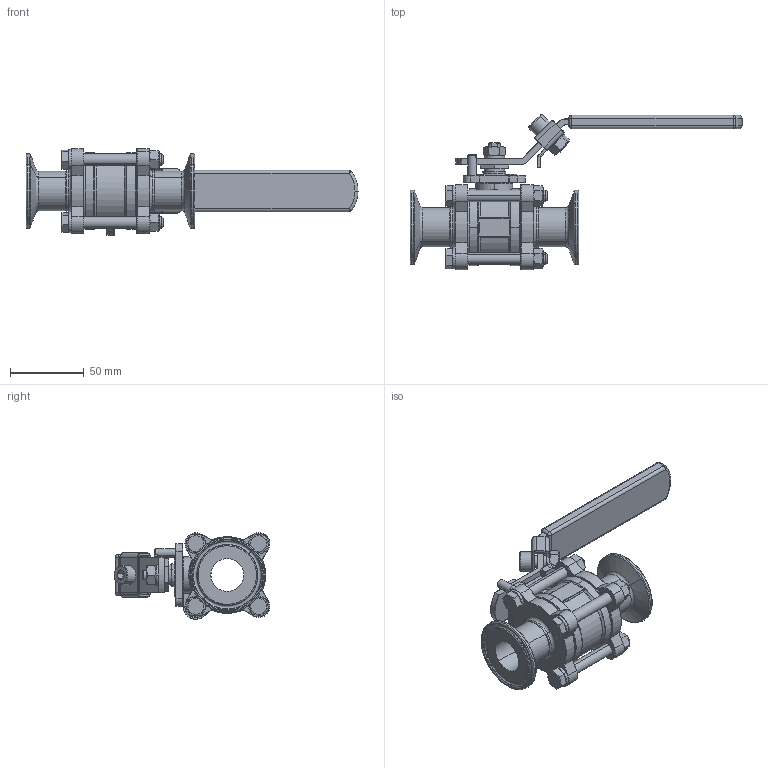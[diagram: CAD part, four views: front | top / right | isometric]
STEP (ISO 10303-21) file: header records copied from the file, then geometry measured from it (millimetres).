
FILE_DESCRIPTION (( 'STEP AP203' ), '1' );
FILE_NAME ('BAV-C-1.0.STEP', '2019-06-17T05:37:42', ( '' ), ( '' ), 'SwSTEP 2.0', 'SolidWorks 2014', '' );
FILE_SCHEMA (( 'CONFIG_CONTROL_DESIGN' ));
Length unit declared in the file: millimetre
Products named in the file (21): 2WAY-GASKET-1.0; 2WAY-BODY-1.0; 2WAY-HANDLE WASHERS-C-0.5; 2WAY-BOLT NUT-1.0; 2WAY-STOP PIN-1.0; 2WAY-CAP-C-1.0; 2WAY-HANDLE-1.0; 2WAY-THRUST WASHER-1.0; BAV-C-1.0; 2WAY-HANDLE NUT-0.5-.75; 2WAY-BOLT WASHERS-1.0; 2WAY-HANDLE-1.0-2; 2WAY-HANDLE-1.0-1; 2WAY-SEAT-1.0; 2WAY-BOLT-1.0; 2WAY-STEM PACKINGS-1.0; 2WAY-HANDLE-1.0-3-1; 2WAY-GLAND-1.0; 2WAY-BALL-1.0; 2WAY-STEM-1.0; 2WAY-HANDLE-1.0-3
Assembly tree (32 placements, depth 2):
  BAV-C-1.0
    2WAY-BODY-1.0
    2WAY-SEAT-1.0  x2
    2WAY-STEM-1.0
    2WAY-THRUST WASHER-1.0
    2WAY-BALL-1.0
    2WAY-GASKET-1.0  x2
    2WAY-CAP-C-1.0  x2
    2WAY-BOLT NUT-1.0  x4
    2WAY-BOLT WASHERS-1.0  x4
    2WAY-BOLT-1.0  x4
    2WAY-GLAND-1.0
    2WAY-STOP PIN-1.0
    2WAY-STEM PACKINGS-1.0
    2WAY-HANDLE-1.0-3
    2WAY-HANDLE-1.0-3-1
    2WAY-HANDLE-1.0
    2WAY-HANDLE-1.0-1
    2WAY-HANDLE-1.0-2
    2WAY-HANDLE WASHERS-C-0.5
    2WAY-HANDLE NUT-0.5-.75
Bounding box: 224.41 x 105.17 x 58.71 mm (x, y, z)
Volume: 189388.9 mm3; surface area: 113515.4 mm2
Topology: 32 solids, 32 shells, 1118 faces, 2542 edges, 1454 vertices
Faces by surface type: cylinder 384, plane 245, torus 231, cone 149, bspline 62, sphere 47
Entity records: 27805 total; most frequent: CARTESIAN_POINT 6267, DIRECTION 4390, ORIENTED_EDGE 3756, EDGE_CURVE 1878, AXIS2_PLACEMENT_3D 1878, VERTEX_POINT 1085, CIRCLE 1055, EDGE_LOOP 907
